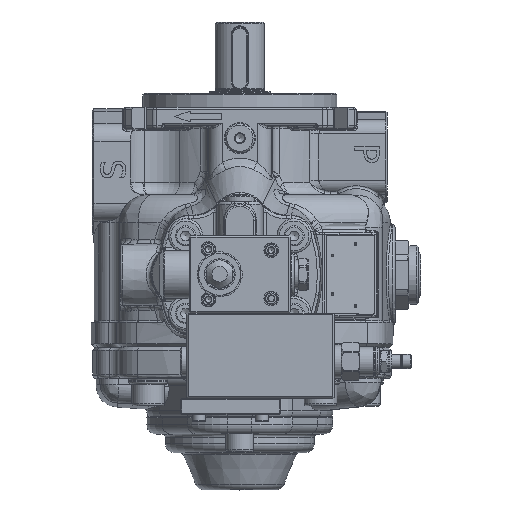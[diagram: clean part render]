
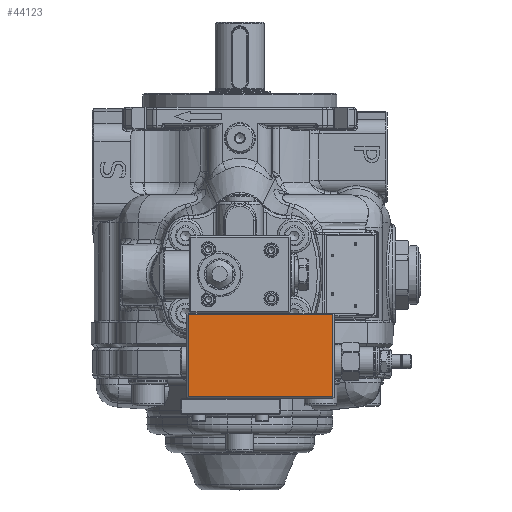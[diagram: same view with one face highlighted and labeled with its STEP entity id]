
A CAD part, top view. The second image highlights one B-rep face of the part: STEP entity #44123.
In plain terms, the highlighted planar face has unit normal (0, 0, 1).
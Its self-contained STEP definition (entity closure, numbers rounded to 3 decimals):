
#4022=LINE('',#89091,#6607);
#4023=LINE('',#89093,#6608);
#4024=LINE('',#89095,#6609);
#4025=LINE('',#89096,#6610);
#6607=VECTOR('',#58224,10.);
#6608=VECTOR('',#58225,10.);
#6609=VECTOR('',#58226,10.);
#6610=VECTOR('',#58227,10.);
#7868=PLANE('',#48167);
#10179=FACE_OUTER_BOUND('',#12779,.T.);
#12779=EDGE_LOOP('',(#37039,#37040,#37041,#37042));
#19724=VERTEX_POINT('',#89089);
#19725=VERTEX_POINT('',#89090);
#19726=VERTEX_POINT('',#89092);
#19727=VERTEX_POINT('',#89094);
#25646=EDGE_CURVE('',#19724,#19725,#4022,.T.);
#25647=EDGE_CURVE('',#19726,#19724,#4023,.T.);
#25648=EDGE_CURVE('',#19727,#19726,#4024,.T.);
#25649=EDGE_CURVE('',#19725,#19727,#4025,.T.);
#37039=ORIENTED_EDGE('',*,*,#25646,.F.);
#37040=ORIENTED_EDGE('',*,*,#25647,.F.);
#37041=ORIENTED_EDGE('',*,*,#25648,.F.);
#37042=ORIENTED_EDGE('',*,*,#25649,.F.);
#44123=ADVANCED_FACE('',(#10179),#7868,.T.);
#48167=AXIS2_PLACEMENT_3D('',#89088,#58222,#58223);
#58222=DIRECTION('center_axis',(0.,0.,
1.));
#58223=DIRECTION('ref_axis',(0.,1.,0.));
#58224=DIRECTION('',(-1.,0.,0.));
#58225=DIRECTION('',(0.,-1.,0.));
#58226=DIRECTION('',(1.,0.,0.));
#58227=DIRECTION('',(0.,1.,0.));
#89088=CARTESIAN_POINT('Origin',(57.208,-116.222,217.023));
#89089=CARTESIAN_POINT('',(56.208,-115.222,217.023));
#89090=CARTESIAN_POINT('',(-36.792,-115.222,217.023));
#89091=CARTESIAN_POINT('',(33.458,-115.222,217.023));
#89092=CARTESIAN_POINT('',(56.208,-62.222,217.023));
#89093=CARTESIAN_POINT('',(56.208,-116.222,217.023));
#89094=CARTESIAN_POINT('',(-36.792,-62.222,217.023));
#89095=CARTESIAN_POINT('',(33.458,-62.222,217.023));
#89096=CARTESIAN_POINT('',(-36.792,-116.222,217.023));
